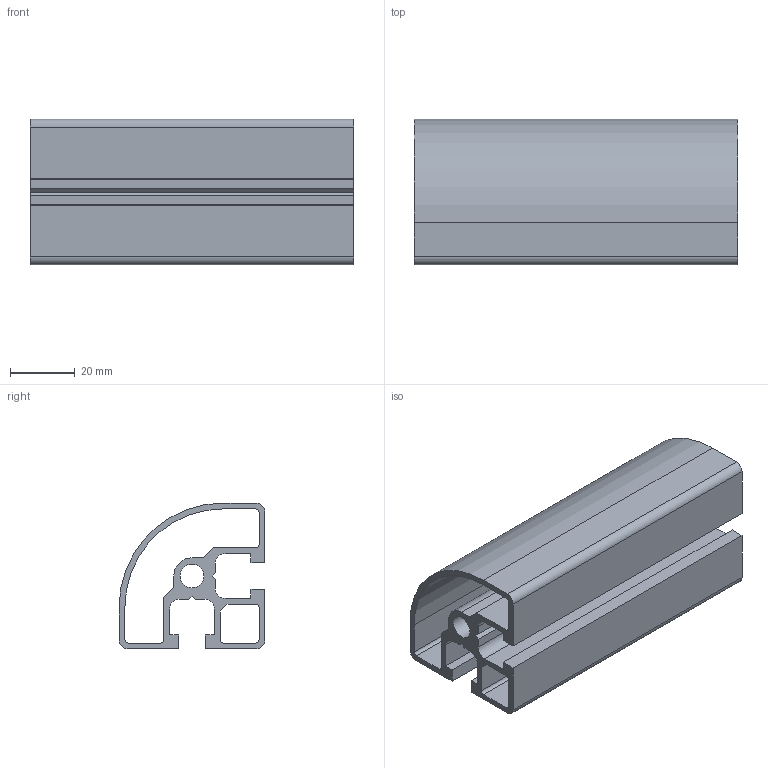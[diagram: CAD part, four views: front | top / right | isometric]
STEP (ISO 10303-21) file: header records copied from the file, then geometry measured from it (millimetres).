
FILE_DESCRIPTION(/* description */ ('STEP AP203'),/* implementation_level */ '2;1');
FILE_NAME(/* name */ 'C:\Users\Stefan.Nesic\Desktop\01010STEP\000Verifica\CORRETTI\PS4545R.stp',/* time_stamp */ '2022-07-12T12:18:03+02:00',/* author */ (''),/* organization */ (''),/* preprocessor_version */ 'ST-DEVELOPER v18.1',/* originating_system */ 'Autodesk Inventor 2021',/* authorisation */ '');
FILE_SCHEMA (('AUTOMOTIVE_DESIGN { 1 0 10303 214 3 1 1 }'));
Length unit declared in the file: millimetre
Products named in the file (1): PS4545R
Bounding box: 100 x 45 x 45 mm (x, y, z)
Volume: 51358.3 mm3; surface area: 46632.5 mm2
Topology: 1 solids, 1 shells, 61 faces, 177 edges, 118 vertices
Faces by surface type: plane 43, cylinder 18
Full cylindrical faces by diameter (mm): 7.3 x1
Entity records: 2060 total; most frequent: CARTESIAN_POINT 357, ORIENTED_EDGE 354, DIRECTION 337, EDGE_CURVE 177, LINE 141, VECTOR 141, VERTEX_POINT 118, AXIS2_PLACEMENT_3D 98
